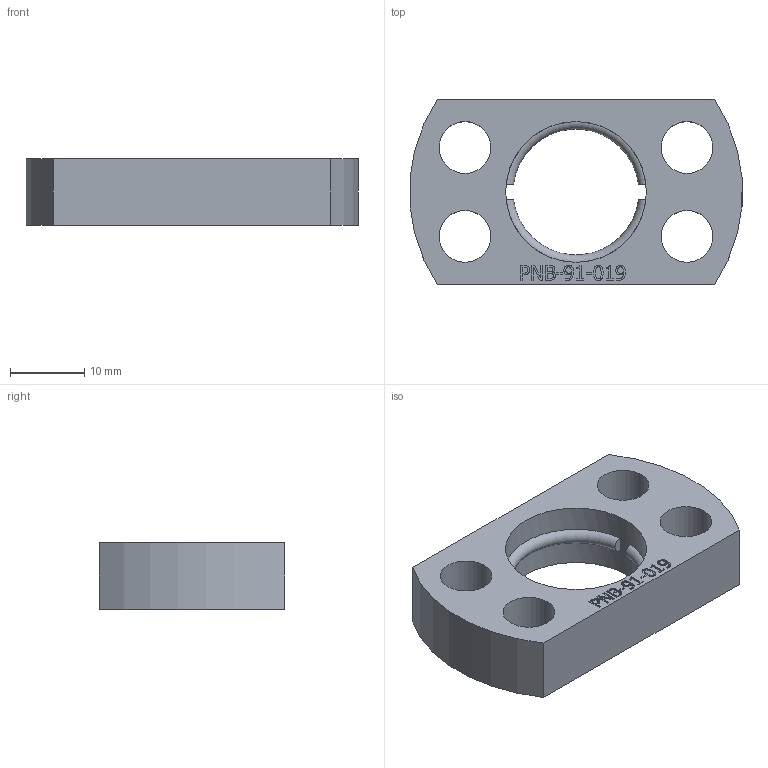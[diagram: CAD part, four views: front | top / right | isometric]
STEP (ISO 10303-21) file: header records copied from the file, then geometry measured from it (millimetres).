
FILE_DESCRIPTION(/* description */ (''),/* implementation_level */ '2;1');
FILE_NAME(/* name */ 'C:\Users\Jefferson\Desktop\Biblioteca Pro Nitro 2024 - Inventor\Flanges\PNB-91-019\PNB-91-019.stp',/* time_stamp */ '2025-01-02T09:28:59-03:00',/* author */ ('Jefferson'),/* organization */ (''),/* preprocessor_version */ 'ST-DEVELOPER v19',/* originating_system */ 'Autodesk Inventor 2023',/* authorisation */ '');
FILE_SCHEMA (('AUTOMOTIVE_DESIGN { 1 0 10303 214 3 1 1 }'));
Length unit declared in the file: millimetre
Products named in the file (1): PNB-75-019
Bounding box: 44.84 x 25 x 9 mm (x, y, z)
Volume: 5722 mm3; surface area: 3798 mm2
Topology: 1 solids, 1 shells, 167 faces, 441 edges, 294 vertices
Faces by surface type: plane 84, bspline 74, cylinder 7, torus 2
Full cylindrical faces by diameter (mm): 7 x4, 19 x1
Entity records: 5664 total; most frequent: CARTESIAN_POINT 1933, ORIENTED_EDGE 882, DIRECTION 495, EDGE_CURVE 441, VERTEX_POINT 294, LINE 271, VECTOR 271, EDGE_LOOP 195
